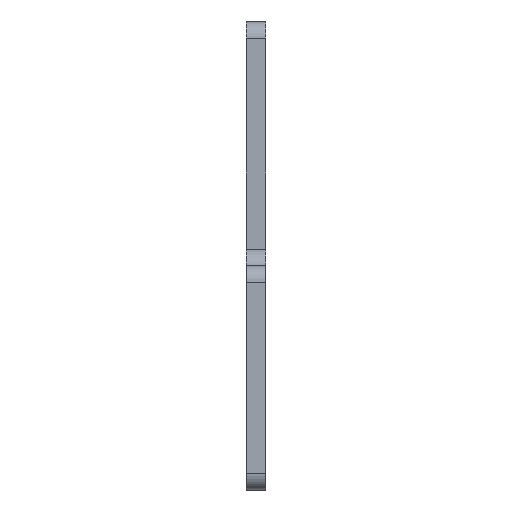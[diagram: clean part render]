
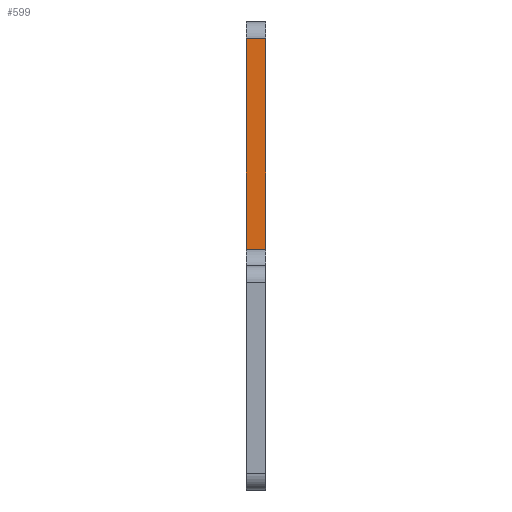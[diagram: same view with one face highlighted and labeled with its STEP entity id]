
A CAD part, left-side view. The second image highlights one B-rep face of the part: STEP entity #599.
In plain terms, the highlighted planar face has unit normal (-1, 0, 0).
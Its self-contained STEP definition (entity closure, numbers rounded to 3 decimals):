
#6 = LINE ( 'NONE', #647, #210 ) ;
#18 = VECTOR ( 'NONE', #138, 1000. ) ;
#41 = CARTESIAN_POINT ( 'NONE',  ( -23., 0., 69.634 ) ) ;
#68 = DIRECTION ( 'NONE',  ( 0., -1., 0. ) ) ;
#138 = DIRECTION ( 'NONE',  ( 0., -1., 0. ) ) ;
#152 = ORIENTED_EDGE ( 'NONE', *, *, #436, .T. ) ;
#210 = VECTOR ( 'NONE', #68, 1000. ) ;
#250 = DIRECTION ( 'NONE',  ( 0., 0., -1. ) ) ;
#257 = LINE ( 'NONE', #422, #18 ) ;
#278 = CARTESIAN_POINT ( 'NONE',  ( -23., 4., 69.634 ) ) ;
#291 = PLANE ( 'NONE',  #959 ) ;
#300 = CARTESIAN_POINT ( 'NONE',  ( -23., 0., 26.366 ) ) ;
#353 = LINE ( 'NONE', #41, #534 ) ;
#372 = LINE ( 'NONE', #476, #588 ) ;
#422 = CARTESIAN_POINT ( 'NONE',  ( -23., 4., 69.634 ) ) ;
#436 = EDGE_CURVE ( 'NONE', #939, #720, #6, .T. ) ;
#441 = ORIENTED_EDGE ( 'NONE', *, *, #571, .F. ) ;
#476 = CARTESIAN_POINT ( 'NONE',  ( -23., 4., 69.634 ) ) ;
#519 = EDGE_CURVE ( 'NONE', #664, #939, #372, .T. ) ;
#532 = DIRECTION ( 'NONE',  ( 0., 0., -1. ) ) ;
#534 = VECTOR ( 'NONE', #532, 1000. ) ;
#555 = VERTEX_POINT ( 'NONE', #962 ) ;
#561 = ORIENTED_EDGE ( 'NONE', *, *, #519, .T. ) ;
#571 = EDGE_CURVE ( 'NONE', #555, #720, #353, .T. ) ;
#588 = VECTOR ( 'NONE', #250, 1000. ) ;
#594 = DIRECTION ( 'NONE',  ( 0., 0., 1. ) ) ;
#599 = ADVANCED_FACE ( 'NONE', ( #937 ), #291, .T. ) ;
#619 = EDGE_LOOP ( 'NONE', ( #441, #820, #561, #152 ) ) ;
#634 = EDGE_CURVE ( 'NONE', #664, #555, #257, .T. ) ;
#647 = CARTESIAN_POINT ( 'NONE',  ( -23., 4., 26.366 ) ) ;
#664 = VERTEX_POINT ( 'NONE', #278 ) ;
#720 = VERTEX_POINT ( 'NONE', #300 ) ;
#783 = CARTESIAN_POINT ( 'NONE',  ( -23., 4., 26.366 ) ) ;
#820 = ORIENTED_EDGE ( 'NONE', *, *, #634, .F. ) ;
#937 = FACE_OUTER_BOUND ( 'NONE', #619, .T. ) ;
#939 = VERTEX_POINT ( 'NONE', #783 ) ;
#959 = AXIS2_PLACEMENT_3D ( 'NONE', #990, #1063, #594 ) ;
#962 = CARTESIAN_POINT ( 'NONE',  ( -23., 0., 69.634 ) ) ;
#990 = CARTESIAN_POINT ( 'NONE',  ( -23., 4., 69.634 ) ) ;
#1063 = DIRECTION ( 'NONE',  ( -1., 0., 0. ) ) ;
